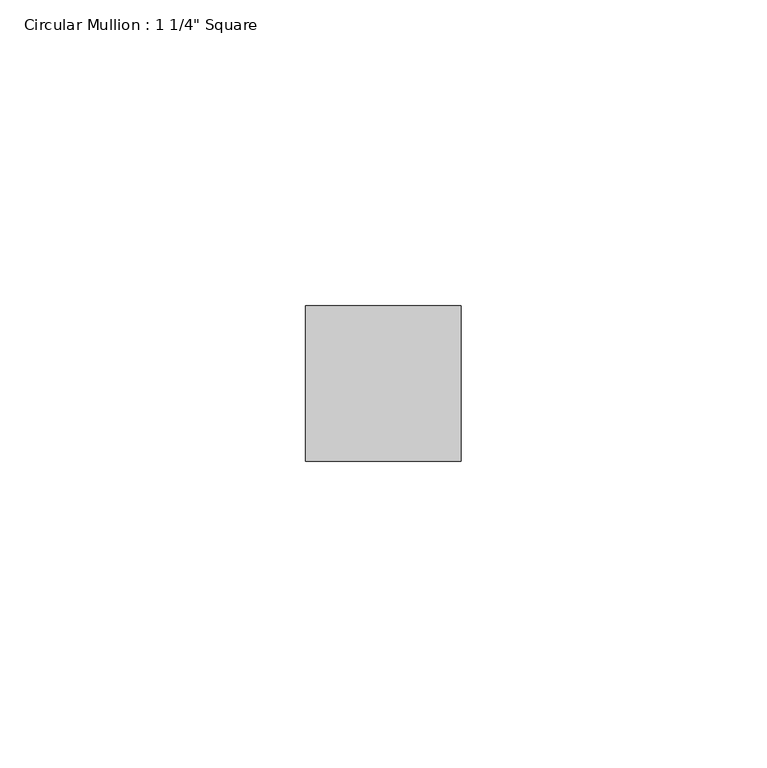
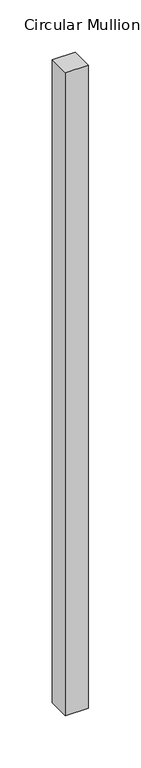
"""IFC4 building model written with IfcOpenShell, lengths in millimetres: member geometry."""

from ifc_helpers import new_model, si_unit, frame, origin, place, context, project, spatial, polyline, outline, extrude, source, transform, mapped, element, save


def member_eec7f54c(model_context):
    return source(origin(), model_context, "Body", "SweptSolid", [
        extrude(outline(polyline([(12.7, 12.7), (12.7, -12.7), (-12.7, -12.7), (-12.7, 12.7), (12.7, 12.7)])), frame((0.0, 0.0, -752.2986217), z_axis=(0.0, 0.0, 1.0), x_axis=(1.0, 0.0, 0.0)), (0.0, 0.0, 1.0), 752.2986217),
    ])


if __name__ == "__main__":
    model = new_model("IFC4")
    model_context = context("Model", 3, world=origin())
    ifc_project = project(units=[si_unit("LENGTHUNIT", "METRE", prefix="MILLI")], contexts=[model_context])
    site = spatial("IfcSite", under=ifc_project)
    building = spatial("IfcBuilding", under=site)
    placement = place(None, origin())
    member_shape = member_eec7f54c(model_context)
    element("IfcMember", 1, ObjectType="Circular Mullion : 1 1/4\" Square", at=placement, inside=building, context=model_context, shape_type="MappedRepresentation", body=[
        mapped(member_shape, transform((0.0, 0.0, 0.0), x_axis=(1.0, 0.0, 0.0), y_axis=(0.0, 1.0, 0.0), z_axis=(0.0, 0.0, 1.0))),
    ])
    save(model, "model.ifc")
